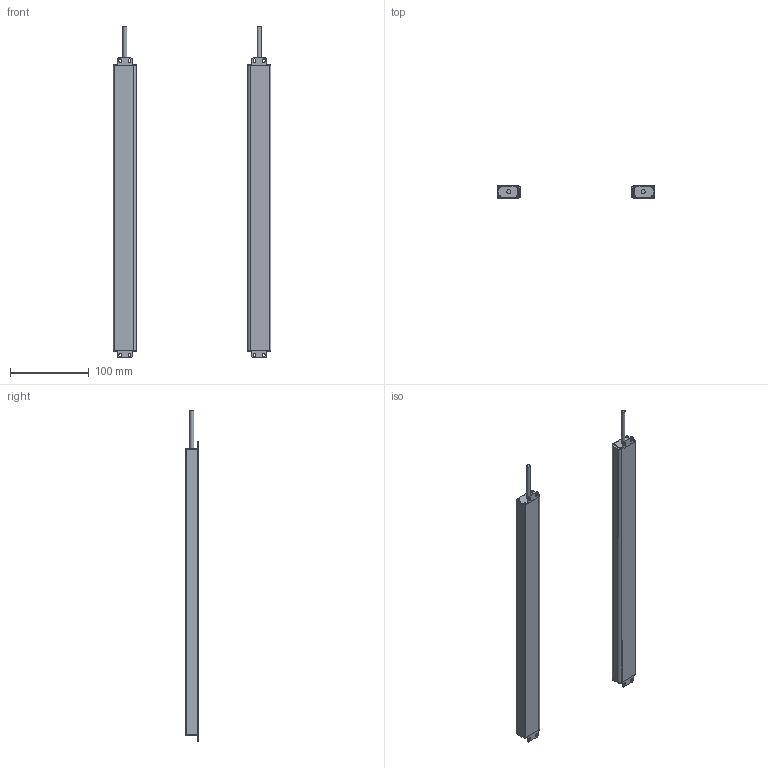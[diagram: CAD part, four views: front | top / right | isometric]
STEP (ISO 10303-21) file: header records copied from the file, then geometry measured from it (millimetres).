
FILE_DESCRIPTION(/* description */ (''),/* implementation_level */ '2;1');
FILE_NAME(/* name */ '1820（16X30ZW).stp',/* time_stamp */ '2020-07-14T19:09:27+08:00',/* author */ (''),/* organization */ (''),/* preprocessor_version */ 'ST-DEVELOPER v16',/* originating_system */ 'SIEMENS PLM Software NX 10.0',/* authorisation */ '');
FILE_SCHEMA (('AP203_CONFIGURATION_CONTROLLED_3D_DESIGN_OF_MECHANICAL_PARTS_AND_ASSEMBLIES_MIM_LF { 1 0 10303 403 2 1 2}'));
Length unit declared in the file: millimetre
Products named in the file (1): Admi58A03253m7f1
Bounding box: 200 x 16 x 421.5 mm (x, y, z)
Volume: 106339.3 mm3; surface area: 157570.6 mm2
Topology: 10 solids, 10 shells, 296 faces, 830 edges, 554 vertices
Faces by surface type: plane 160, cylinder 136
Full cylindrical faces by diameter (mm): 5 x2
Entity records: 9760 total; most frequent: DIRECTION 1692, CARTESIAN_POINT 1675, ORIENTED_EDGE 1652, EDGE_CURVE 826, AXIS2_PLACEMENT_3D 569, LINE 554, VECTOR 554, VERTEX_POINT 552
